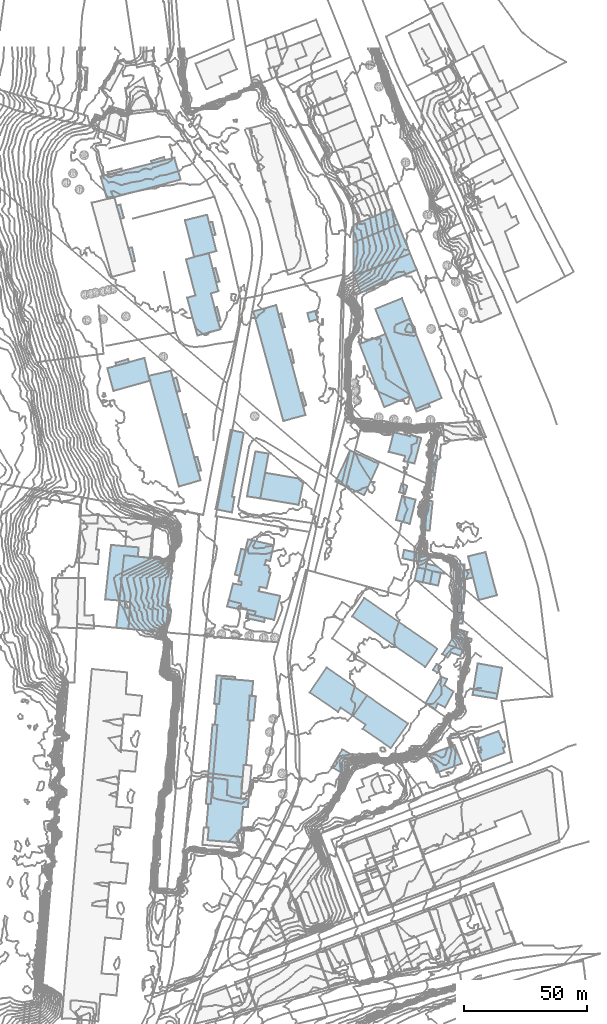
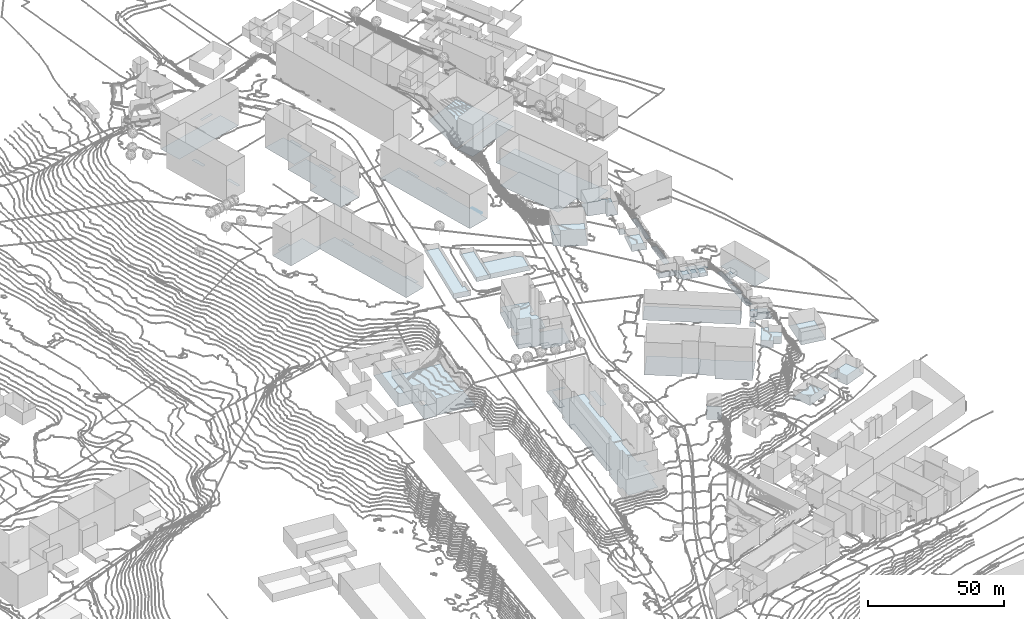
# Not in any storey, part 24 of 419: 72 footings.
"""IFC2X3 model written with IfcOpenShell, lengths in metres."""

from ifc_helpers import new_model, si_unit, frame, origin_with_axes, place, context, subcontext, project, faceted_brep, element, save


model = new_model("IFC2X3")

# Units and contexts
model_context = context("Model", 3, precision=1e-05, world=origin_with_axes())
body_context = subcontext(model_context, "Body", "Model", "MODEL_VIEW")
ifc_project = project(units=[si_unit("AREAUNIT", "SQUARE_METRE"), si_unit("LENGTHUNIT", "METRE")], contexts=[model_context])

# Footings
footing_1_placement = place(None, frame((966.4920204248, 798.5976909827, 87.6229010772), z_axis=(0.0, 0.0, 1.0), x_axis=(1.0, 0.0, 0.0)))
element("IfcFooting", 1, at=footing_1_placement, Name="Sol 0", PredefinedType="STRIP_FOOTING", context=body_context, shape_type="Brep", body=[
    faceted_brep([(2.4, -0.1000000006, 0.0), (0.0, 0.0, 0.0), (0.2, 3.0999999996, 0.0), (0.1, 4.5999999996, 0.0), (2.7, 4.3999999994, 0.0)], [[[0, 1, 2]], [[3, 4, 0]], [[0, 2, 3]]]),
])
footing_2_placement = place(None, frame((919.6920204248, 854.8976909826, 96.6100009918), z_axis=(0.0, 0.0, 1.0), x_axis=(1.0, 0.0, 0.0)))
element("IfcFooting", 2, at=footing_2_placement, Name="Sol 0", PredefinedType="STRIP_FOOTING", context=body_context, shape_type="Brep", body=[
    faceted_brep([(0.0, 0.0, 0.0), (3.4, 13.9000000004, 0.0), (13.4, 9.2000000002, 0.0), (15.1, 8.5, 0.0), (9.2000000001, -4.2999999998, 0.0)], [[[0, 1, 2]], [[3, 4, 0]], [[0, 2, 3]]]),
])
footing_3_placement = place(None, frame((953.7920204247, 766.2976909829, 93.1307992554), z_axis=(0.0, 0.0, 1.0), x_axis=(1.0, 0.0, 0.0)))
element("IfcFooting", 3, at=footing_3_placement, Name="Sol 0", PredefinedType="STRIP_FOOTING", context=body_context, shape_type="Brep", body=[
    faceted_brep([(0.0, 0.0, 0.0), (6.4, 10.5999999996, 0.0), (8.8, 9.5999999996, 0.0), (5.0, -0.4000000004, 0.0), (3.9, -2.6000000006, 0.0), (11.4, 4.5, 0.0), (7.9, -1.9000000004, 0.0), (7.5, 7.0999999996, 0.0)], [[[0, 1, 2]], [[3, 4, 0]], [[5, 6, 3]], [[0, 2, 7]], [[5, 3, 0]], [[0, 7, 5]]]),
])
footing_4_placement = place(None, frame((864.7920204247, 715.6976909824, 91.3789970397), z_axis=(0.0, 0.0, 1.0), x_axis=(1.0, 0.0, 0.0)))
element("IfcFooting", 4, at=footing_4_placement, Name="Sol 0", PredefinedType="STRIP_FOOTING", context=body_context, shape_type="Brep", body=[
    faceted_brep([(3.5, 41.7000000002, 0.0), (4.2000000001, 50.1000000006, 0.0), (5.2000000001, 50.0, 0.0), (0.0, 0.0, 0.0), (0.8, 9.5, 0.0), (1.8, 9.5, 0.0), (12.6000000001, -6.2000000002, 0.0), (0.5, -5.2000000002, 0.0), (1.0, -0.0999999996, 0.0), (14.9, 8.2999999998, 0.0), (14.1000000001, -1.2999999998, 0.0), (13.1000000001, -1.2000000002, 0.0), (17.2000000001, 11.5, 0.0), (16.9, 8.2000000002, 0.0), (17.7000000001, 43.4000000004, 0.0), (16.1000000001, 25.2999999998, 0.0), (15.2000000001, 25.4000000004, 0.0), (19.0, 59.4000000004, 0.0), (18.5, 53.4000000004, 0.0), (17.6000000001, 53.5, 0.0), (6.1000000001, 60.5, 0.0), (4.5, 41.6000000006, 0.0), (14.1000000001, 11.7999999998, 0.0), (16.8, 43.5, 0.0)], [[[0, 1, 2]], [[3, 4, 5]], [[6, 7, 8]], [[9, 10, 11]], [[12, 13, 9]], [[14, 15, 16]], [[17, 18, 19]], [[2, 20, 17]], [[21, 0, 2]], [[8, 3, 5]], [[11, 6, 8]], [[22, 12, 9]], [[23, 14, 16]], [[2, 17, 19]], [[8, 5, 21]], [[9, 11, 8]], [[19, 23, 16]], [[21, 2, 19]], [[9, 8, 21]], [[21, 19, 16]], [[22, 9, 21]], [[21, 16, 22]]]),
])
footing_5_placement = place(None, frame((867.9920204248, 765.8976909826, 96.2319999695), z_axis=(0.0, 0.0, 1.0), x_axis=(1.0, 0.0, 0.0)))
element("IfcFooting", 5, at=footing_5_placement, Name="Sol 0", PredefinedType="STRIP_FOOTING", context=body_context, shape_type="Brep", body=[
    faceted_brep([(8.4, 10.9000000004, 0.0), (8.2999999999, 9.7999999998, 0.0), (2.9, 10.2999999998, 0.0), (2.0, -0.2000000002, 0.0), (0.0, 0.0, 0.0), (1.0, 11.5, 0.0)], [[[0, 1, 2]], [[3, 4, 5]], [[5, 0, 2]], [[2, 3, 5]]]),
])
footing_6_placement = place(None, frame((972.8920204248, 769.4976909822, 85.5200004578), z_axis=(0.0, 0.0, 1.0), x_axis=(1.0, 0.0, 0.0)))
element("IfcFooting", 6, at=footing_6_placement, Name="Sol 0", PredefinedType="STRIP_FOOTING", context=body_context, shape_type="Brep", body=[
    faceted_brep([(0.0, 0.0, 0.0), (0.3999999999, 2.2000000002, 0.0), (10.2, 0.5, 0.0), (9.7, -1.5999999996, 0.0)], [[[0, 1, 2]], [[2, 3, 0]]]),
])
footing_7_placement = place(None, frame((953.7920204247, 820.5976909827, 94.747599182), z_axis=(0.0, 0.0, 1.0), x_axis=(1.0, 0.0, 0.0)))
element("IfcFooting", 7, at=footing_7_placement, Name="Sol 0", PredefinedType="STRIP_FOOTING", context=body_context, shape_type="Brep", body=[
    faceted_brep([(2.9, -0.9000000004, 0.0), (0.0, 0.0, 0.0), (0.4, 2.2000000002, 0.0), (7.8, -1.4000000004, 0.0), (7.7000000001, -1.9000000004, 0.0), (4.8, 1.0999999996, 0.0)], [[[0, 1, 2]], [[3, 4, 0]], [[2, 5, 3]], [[3, 0, 2]]]),
])
footing_8_placement = place(None, frame((856.5920204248, 946.3976909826, 97.8904017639), z_axis=(0.0, 0.0, 1.0), x_axis=(1.0, 0.0, 0.0)))
element("IfcFooting", 8, at=footing_8_placement, Name="Sol 0", PredefinedType="STRIP_FOOTING", context=body_context, shape_type="Brep", body=[
    faceted_brep([(0.0, 0.0, 0.0), (3.3, 1.0, 0.0), (9.2, 2.5, 0.0), (4.6, -30.9000000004, 0.0), (0.4, -15.5999999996, 0.0), (3.8, -14.5999999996, 0.0), (10.1, -13.7999999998, 0.0), (13.9, -28.4000000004, 0.0), (13.1, -12.9000000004, 0.0)], [[[0, 1, 2]], [[3, 4, 5]], [[6, 7, 3]], [[2, 8, 6]], [[5, 0, 2]], [[6, 3, 5]], [[5, 2, 6]]]),
])
footing_9_placement = place(None, frame((955.4920204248, 745.3976909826, 82.5194986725), z_axis=(0.0, 0.0, 1.0), x_axis=(1.0, 0.0, 0.0)))
element("IfcFooting", 9, at=footing_9_placement, Name="Sol 0", PredefinedType="STRIP_FOOTING", context=body_context, shape_type="Brep", body=[
    faceted_brep([(0.0, 0.0, 0.0), (10.2, 3.7999999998, 0.0), (13.2, -3.7000000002, 0.0), (2.9, -7.5, 0.0)], [[[0, 1, 2]], [[2, 3, 0]]]),
])
footing_10_placement = place(None, frame((973.8920204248, 751.2976909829, 82.4180023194), z_axis=(0.0, 0.0, 1.0), x_axis=(1.0, 0.0, 0.0)))
element("IfcFooting", 10, at=footing_10_placement, Name="Sol 0", PredefinedType="STRIP_FOOTING", context=body_context, shape_type="Brep", body=[
    faceted_brep([(1.2999999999, -4.7000000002, 0.0), (1.6, -4.5, 0.0), (2.7, -4.2000000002, 0.0), (12.0, -5.2000000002, 0.0), (2.8999999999, -8.7000000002, 0.0), (11.8999999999, -0.8000000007, 0.0), (12.2999999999, -2.8000000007, 0.0), (11.3999999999, -3.3000000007, 0.0), (0.0, 0.0, 0.0), (9.6, 3.5, 0.0), (11.3999999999, -0.9000000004, 0.0), (2.2999999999, -3.0, 0.0), (1.2999999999, -3.5, 0.0)], [[[0, 1, 2]], [[3, 4, 0]], [[5, 6, 7]], [[8, 9, 10]], [[11, 12, 8]], [[3, 0, 2]], [[10, 5, 7]], [[11, 8, 10]], [[3, 2, 11]], [[11, 10, 7]], [[7, 3, 11]]]),
])
footing_11_placement = place(None, frame((924.4920204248, 939.6976909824, 87.7650001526), z_axis=(0.0, 0.0, 1.0), x_axis=(1.0, 0.0, 0.0)))
element("IfcFooting", 11, at=footing_11_placement, Name="Sol 0", PredefinedType="STRIP_FOOTING", context=body_context, shape_type="Brep", body=[
    faceted_brep([(15.7999999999, 27.2999999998, 0.0), (23.1, 9.0, 0.0), (0.0, 0.0, 0.0), (0.1, 20.7000000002, 0.0)], [[[0, 1, 2]], [[2, 3, 0]]]),
])
footing_12_placement = place(None, frame((971.0920204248, 825.7976909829, 87.4388011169), z_axis=(0.0, 0.0, 1.0), x_axis=(1.0, 0.0, 0.0)))
element("IfcFooting", 12, at=footing_12_placement, Name="Sol 0", PredefinedType="STRIP_FOOTING", context=body_context, shape_type="Brep", body=[
    faceted_brep([(4.4, -17.7000000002, 0.0), (2.1, -8.6000000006, 0.0), (0.0, 0.0, 0.0), (7.1, 1.6999999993, 0.0), (11.7, -15.8000000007, 0.0)], [[[0, 1, 2]], [[3, 4, 0]], [[0, 2, 3]]]),
])
footing_13_placement = place(None, frame((969.3920204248, 816.2976909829, 87.8224008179), z_axis=(0.0, 0.0, 1.0), x_axis=(1.0, 0.0, 0.0)))
element("IfcFooting", 13, at=footing_13_placement, Name="Sol 0", PredefinedType="STRIP_FOOTING", context=body_context, shape_type="Brep", body=[
    faceted_brep([(3.7999999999, 0.8999999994, 0.0), (0.0, 0.0, 0.0), (0.1, 3.6999999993, 0.0), (2.7999999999, 4.1999999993, 0.0)], [[[0, 1, 2]], [[2, 3, 0]]]),
])
footing_14_placement = place(None, frame((859.8920204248, 865.9976909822, 97.2720973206), z_axis=(0.0, 0.0, 1.0), x_axis=(1.0, 0.0, 0.0)))
element("IfcFooting", 14, at=footing_14_placement, Name="Sol 0", PredefinedType="STRIP_FOOTING", context=body_context, shape_type="Brep", body=[
    faceted_brep([(2.7999999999, -5.2999999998, 0.0), (1.5, -5.5999999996, 0.0), (0.0, 0.0, 0.0), (1.2999999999, 0.2000000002, 0.0)], [[[0, 1, 2]], [[2, 3, 0]]]),
])
footing_15_placement = place(None, frame((873.8920204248, 807.8976909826, 96.2265022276), z_axis=(0.0, 0.0, 1.0), x_axis=(1.0, 0.0, 0.0)))
element("IfcFooting", 15, at=footing_15_placement, Name="Sol 0", PredefinedType="STRIP_FOOTING", context=body_context, shape_type="Brep", body=[
    faceted_brep([(5.1, -1.4000000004, 0.0), (0.0, 0.0, 0.0), (1.7, 6.7999999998, 0.0), (10.8999999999, -4.5, 0.0), (4.7, -3.2999999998, 0.0), (18.3999999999, -7.9000000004, 0.0), (10.5, -6.2000000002, 0.0), (12.2, 3.7000000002, 0.0), (20.8999999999, 1.7999999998, 0.0), (17.0, 11.2999999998, 0.0), (15.2999999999, 4.9000000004, 0.0), (12.6, 5.5, 0.0), (16.1, 14.0999999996, 0.0), (16.7, 12.7999999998, 0.0), (16.2999999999, 11.2999999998, 0.0), (18.2, 22.4000000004, 0.0), (16.7999999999, 16.0, 0.0), (15.1, 16.2999999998, 0.0), (3.8999999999, 7.7000000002, 0.0), (7.7999999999, 24.7999999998, 0.0), (5.1, 6.2000000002, 0.0), (14.6, 14.4000000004, 0.0), (5.2999999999, 7.5, 0.0)], [[[0, 1, 2]], [[3, 4, 0]], [[5, 6, 3]], [[7, 8, 5]], [[9, 10, 11]], [[12, 13, 14]], [[15, 16, 17]], [[18, 19, 15]], [[0, 2, 20]], [[5, 3, 0]], [[14, 9, 11]], [[21, 12, 14]], [[18, 15, 17]], [[0, 20, 22]], [[7, 5, 0]], [[21, 14, 11]], [[18, 17, 21]], [[7, 0, 22]], [[22, 18, 21]], [[11, 7, 22]], [[22, 21, 11]]]),
])
footing_16_placement = place(None, frame((955.0920204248, 852.8976909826, 88.6566027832), z_axis=(0.0, 0.0, 1.0), x_axis=(1.0, 0.0, 0.0)))
element("IfcFooting", 16, at=footing_16_placement, Name="Sol 0", PredefinedType="STRIP_FOOTING", context=body_context, shape_type="Brep", body=[
    faceted_brep([(0.0, 0.0, 0.0), (1.7, 14.0, 0.0), (3.7, 13.7000000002, 0.0), (1.7, -0.2000000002, 0.0)], [[[0, 1, 2]], [[2, 3, 0]]]),
])
footing_17_placement = place(None, frame((865.8920204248, 961.3976909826, 98.3867999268), z_axis=(0.0, 0.0, 1.0), x_axis=(1.0, 0.0, 0.0)))
element("IfcFooting", 17, at=footing_17_placement, Name="Sol 0", PredefinedType="STRIP_FOOTING", context=body_context, shape_type="Brep", body=[
    faceted_brep([(1.3999999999, -5.2999999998, 0.0), (0.0, 0.0, 0.0), (1.3999999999, 0.2000000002, 0.0), (2.6, -5.0, 0.0)], [[[0, 1, 2]], [[2, 3, 0]]]),
])
footing_18_placement = place(None, frame((851.1920204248, 897.8976909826, 97.4899997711), z_axis=(0.0, 0.0, 1.0), x_axis=(1.0, 0.0, 0.0)))
element("IfcFooting", 18, at=footing_18_placement, Name="Sol 0", PredefinedType="STRIP_FOOTING", context=body_context, shape_type="Brep", body=[
    faceted_brep([(1.5, -5.2999999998, 0.0), (0.0, 0.0, 0.0), (1.5, 0.4000000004, 0.0), (2.9, -5.0, 0.0)], [[[0, 1, 2]], [[2, 3, 0]]]),
])
footing_19_placement = place(None, frame((867.4920204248, 942.6976909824, 98.3299980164), z_axis=(0.0, 0.0, 1.0), x_axis=(1.0, 0.0, 0.0)))
element("IfcFooting", 19, at=footing_19_placement, Name="Sol 0", PredefinedType="STRIP_FOOTING", context=body_context, shape_type="Brep", body=[
    faceted_brep([(1.4, -5.5999999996, 0.0), (0.0, 0.0, 0.0), (1.1, 0.2000000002, 0.0), (2.6, -5.2999999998, 0.0)], [[[0, 1, 2]], [[2, 3, 0]]]),
])
footing_20_placement = place(None, frame((881.5920204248, 759.1976909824, 96.2240005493), z_axis=(0.0, 0.0, 1.0), x_axis=(1.0, 0.0, 0.0)))
element("IfcFooting", 20, at=footing_20_placement, Name="Sol 0", PredefinedType="STRIP_FOOTING", context=body_context, shape_type="Brep", body=[
    faceted_brep([(0.8, 10.0, 0.0), (1.7, 9.9000000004, 0.0), (3.3, 9.7000000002, 0.0), (2.4, -0.2000000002, 0.0), (0.0, 0.0, 0.0)], [[[0, 1, 2]], [[3, 4, 0]], [[0, 2, 3]]]),
])
footing_21_placement = place(None, frame((956.7920204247, 779.5976909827, 93.3320007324), z_axis=(0.0, 0.0, 1.0), x_axis=(1.0, 0.0, 0.0)))
element("IfcFooting", 21, at=footing_21_placement, Name="Sol 0", PredefinedType="STRIP_FOOTING", context=body_context, shape_type="Brep", body=[
    faceted_brep([(0.0, 0.0, 0.0), (1.6000000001, 2.5, 0.0), (3.4, 1.2999999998, 0.0), (1.8, -1.2000000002, 0.0)], [[[0, 1, 2]], [[2, 3, 0]]]),
])
footing_22_placement = place(None, frame((924.2920204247, 760.8976909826, 94.2938012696), z_axis=(0.0, 0.0, 1.0), x_axis=(1.0, 0.0, 0.0)))
element("IfcFooting", 22, at=footing_22_placement, Name="Sol 0", PredefinedType="STRIP_FOOTING", context=body_context, shape_type="Brep", body=[
    faceted_brep([(0.0, 0.0, 0.0), (5.7000000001, 8.2999999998, 0.0), (22.4, -3.0999999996, 0.0), (15.4, -13.0, 0.0), (3.9, -5.2000000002, 0.0), (5.2000000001, -3.5, 0.0)], [[[0, 1, 2]], [[3, 4, 5]], [[5, 0, 2]], [[2, 3, 5]]]),
])
footing_23_placement = place(None, frame((927.0920204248, 911.9976909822, 86.8095017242), z_axis=(0.0, 0.0, 1.0), x_axis=(1.0, 0.0, 0.0)))
element("IfcFooting", 23, at=footing_23_placement, Name="Sol 0", PredefinedType="STRIP_FOOTING", context=body_context, shape_type="Brep", body=[
    faceted_brep([(10.4, 4.1000000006, 0.0), (20.5, -21.1999999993, 0.0), (10.0, -25.5, 0.0), (0.0, 0.0, 0.0)], [[[0, 1, 2]], [[2, 3, 0]]]),
])
footing_24_placement = place(None, frame((886.6920204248, 849.2976909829, 97.1301996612), z_axis=(0.0, 0.0, 1.0), x_axis=(1.0, 0.0, 0.0)))
element("IfcFooting", 24, at=footing_24_placement, Name="Sol 0", PredefinedType="STRIP_FOOTING", context=body_context, shape_type="Brep", body=[
    faceted_brep([(14.9, 8.1999999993, 0.0), (17.4, 6.1999999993, 0.0), (15.6, -2.6000000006, 0.0), (0.0, 0.0, 0.0), (2.0, 10.3999999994, 0.0)], [[[0, 1, 2]], [[3, 4, 0]], [[0, 2, 3]]]),
])
footing_25_placement = place(None, frame((963.0920204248, 789.7976909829, 87.6648019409), z_axis=(0.0, 0.0, 1.0), x_axis=(1.0, 0.0, 0.0)))
element("IfcFooting", 25, at=footing_25_placement, Name="Sol 0", PredefinedType="STRIP_FOOTING", context=body_context, shape_type="Brep", body=[
    faceted_brep([(8.3, 0.7999999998, 0.0), (7.7, -2.8000000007, 0.0), (0.0, 0.0, 0.0), (1.7, 2.6999999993, 0.0), (1.7, 3.3999999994, 0.0)], [[[0, 1, 2]], [[3, 4, 0]], [[0, 2, 3]]]),
])
footing_26_placement = place(None, frame((881.2920204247, 850.0976909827, 97.16780159), z_axis=(0.0, 0.0, 1.0), x_axis=(1.0, 0.0, 0.0)))
element("IfcFooting", 26, at=footing_26_placement, Name="Sol 0", PredefinedType="STRIP_FOOTING", context=body_context, shape_type="Brep", body=[
    faceted_brep([(3.4, 18.2999999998, 0.0), (8.8, 17.3999999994, 0.0), (5.4, -0.7999999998, 0.0), (0.0, 0.0, 0.0)], [[[0, 1, 2]], [[2, 3, 0]]]),
])
footing_27_placement = place(None, frame((881.2920204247, 802.4976909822, 97.0060984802), z_axis=(0.0, 0.0, 1.0), x_axis=(1.0, 0.0, 0.0)))
element("IfcFooting", 27, at=footing_27_placement, Name="Sol 0", PredefinedType="STRIP_FOOTING", context=body_context, shape_type="Brep", body=[
    faceted_brep([(3.1000000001, -0.7999999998, 0.0), (0.0, 0.0, 0.0), (0.4, 1.5, 0.0), (3.5, 0.9000000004, 0.0)], [[[0, 1, 2]], [[2, 3, 0]]]),
])
footing_28_placement = place(None, frame((966.8920204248, 806.8976909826, 87.638598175), z_axis=(0.0, 0.0, 1.0), x_axis=(1.0, 0.0, 0.0)))
element("IfcFooting", 28, at=footing_28_placement, Name="Sol 0", PredefinedType="STRIP_FOOTING", context=body_context, shape_type="Brep", body=[
    faceted_brep([(2.5, 5.2000000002, 0.0), (2.5, -0.2000000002, 0.0), (1.5, -0.0999999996, 0.0), (0.0, 0.0, 0.0), (0.3999999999, 6.7999999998, 0.0)], [[[0, 1, 2]], [[3, 4, 0]], [[0, 2, 3]]]),
])
footing_29_placement = place(None, frame((953.2920204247, 836.3976909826, 88.0883973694), z_axis=(0.0, 0.0, 1.0), x_axis=(1.0, 0.0, 0.0)))
element("IfcFooting", 29, at=footing_29_placement, Name="Sol 0", PredefinedType="STRIP_FOOTING", context=body_context, shape_type="Brep", body=[
    faceted_brep([(1.3, 12.0999999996, 0.0), (3.4, 11.7000000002, 0.0), (2.2000000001, -0.0999999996, 0.0), (0.0, 0.0, 0.0)], [[[0, 1, 2]], [[2, 3, 0]]]),
])
footing_30_placement = place(None, frame((967.3920204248, 814.2976909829, 87.8290016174), z_axis=(0.0, 0.0, 1.0), x_axis=(1.0, 0.0, 0.0)))
element("IfcFooting", 30, at=footing_30_placement, Name="Sol 0", PredefinedType="STRIP_FOOTING", context=body_context, shape_type="Brep", body=[
    faceted_brep([(2.2, 8.1999999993, 0.0), (2.0, -1.5, 0.0), (0.0, 0.0, 0.0), (0.5, 7.1999999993, 0.0), (0.2, 8.1999999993, 0.0)], [[[0, 1, 2]], [[3, 4, 0]], [[0, 2, 3]]]),
])
footing_31_placement = place(None, frame((966.5920204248, 803.1976909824, 87.7783999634), z_axis=(0.0, 0.0, 1.0), x_axis=(1.0, 0.0, 0.0)))
element("IfcFooting", 31, at=footing_31_placement, Name="Sol 0", PredefinedType="STRIP_FOOTING", context=body_context, shape_type="Brep", body=[
    faceted_brep([(1.8, -0.2000000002, 0.0), (0.0, 0.0, 0.0), (0.3, 3.7000000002, 0.0), (1.8, 3.6000000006, 0.0)], [[[0, 1, 2]], [[2, 3, 0]]]),
])
footing_32_placement = place(None, frame((924.9920204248, 939.6976909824, 87.0495999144), z_axis=(0.0, 0.0, 1.0), x_axis=(1.0, 0.0, 0.0)))
element("IfcFooting", 32, at=footing_32_placement, Name="Sol 0", PredefinedType="STRIP_FOOTING", context=body_context, shape_type="Brep", body=[
    faceted_brep([(22.6, 9.0, 0.0), (25.2999999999, 2.5, 0.0), (8.0, -4.2000000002, 0.0), (2.5, -6.7999999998, 0.0), (0.0, 0.0, 0.0), (8.0, -4.7000000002, 0.0)], [[[0, 1, 2]], [[3, 4, 0]], [[2, 5, 3]], [[3, 0, 2]]]),
])
footing_33_placement = place(None, frame((868.1920204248, 926.6976909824, 98.0819992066), z_axis=(0.0, 0.0, 1.0), x_axis=(1.0, 0.0, 0.0)))
element("IfcFooting", 33, at=footing_33_placement, Name="Sol 0", PredefinedType="STRIP_FOOTING", context=body_context, shape_type="Brep", body=[
    faceted_brep([(2.4, -5.0999999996, 0.0), (1.3, -5.3999999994, 0.0), (0.0, 0.0, 0.0), (1.0, 0.4000000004, 0.0)], [[[0, 1, 2]], [[2, 3, 0]]]),
])
footing_34_placement = place(None, frame((833.1920204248, 950.9976909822, 98.5739990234), z_axis=(0.0, 0.0, 1.0), x_axis=(1.0, 0.0, 0.0)))
element("IfcFooting", 34, at=footing_34_placement, Name="Sol 0", PredefinedType="STRIP_FOOTING", context=body_context, shape_type="Brep", body=[
    faceted_brep([(2.7000000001, -5.2999999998, 0.0), (1.6, -5.5999999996, 0.0), (0.0, 0.0, 0.0), (1.4, 0.3000000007, 0.0)], [[[0, 1, 2]], [[2, 3, 0]]]),
])
footing_35_placement = place(None, frame((883.8920204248, 925.2976909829, 97.2430023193), z_axis=(0.0, 0.0, 1.0), x_axis=(1.0, 0.0, 0.0)))
element("IfcFooting", 35, at=footing_35_placement, Name="Sol 0", PredefinedType="STRIP_FOOTING", context=body_context, shape_type="Brep", body=[
    faceted_brep([(0.0, 0.0, 0.0), (9.2999999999, 2.5, 0.0), (10.2, -1.1000000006, 0.0), (21.2, -42.1000000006, 0.0), (12.2, -44.5, 0.0)], [[[0, 1, 2]], [[3, 4, 0]], [[0, 2, 3]]]),
])
footing_36_placement = place(None, frame((960.5920204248, 786.0976909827, 92.645898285), z_axis=(0.0, 0.0, 1.0), x_axis=(1.0, 0.0, 0.0)))
element("IfcFooting", 36, at=footing_36_placement, Name="Sol 0", PredefinedType="STRIP_FOOTING", context=body_context, shape_type="Brep", body=[
    faceted_brep([(2.5, 3.7000000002, 0.0), (8.3, 1.5999999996, 0.0), (7.4, -0.7999999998, 0.0), (2.2, -1.5, 0.0), (0.0, 0.0, 0.0), (3.6, 0.5999999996, 0.0)], [[[0, 1, 2]], [[3, 4, 0]], [[0, 2, 5]], [[5, 3, 0]]]),
])
footing_37_placement = place(None, frame((950.4920204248, 821.1976909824, 91.573501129), z_axis=(0.0, 0.0, 1.0), x_axis=(1.0, 0.0, 0.0)))
element("IfcFooting", 37, at=footing_37_placement, Name="Sol 0", PredefinedType="STRIP_FOOTING", context=body_context, shape_type="Brep", body=[
    faceted_brep([(3.2999999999, -0.5999999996, 0.0), (0.0, 0.0, 0.0), (1.4, 6.1000000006, 0.0), (4.2999999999, 3.9000000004, 0.0)], [[[0, 1, 2]], [[2, 3, 0]]]),
])
footing_38_placement = place(None, frame((894.0920204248, 924.1976909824, 97.4109981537), z_axis=(0.0, 0.0, 1.0), x_axis=(1.0, 0.0, 0.0)))
element("IfcFooting", 38, at=footing_38_placement, Name="Sol 0", PredefinedType="STRIP_FOOTING", context=body_context, shape_type="Brep", body=[
    faceted_brep([(1.6, -5.5, 0.0), (0.0, 0.0, 0.0), (1.2, 0.2000000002, 0.0), (2.6, -5.2999999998, 0.0)], [[[0, 1, 2]], [[2, 3, 0]]]),
])
footing_39_placement = place(None, frame((933.4920204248, 926.2976909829, 86.2701992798), z_axis=(0.0, 0.0, 1.0), x_axis=(1.0, 0.0, 0.0)))
element("IfcFooting", 39, at=footing_39_placement, Name="Sol 0", PredefinedType="STRIP_FOOTING", context=body_context, shape_type="Brep", body=[
    faceted_brep([(26.9, -36.2000000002, 0.0), (16.2999999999, -40.6000000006, 0.0), (0.0, 0.0, 0.0), (10.7, 4.2999999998, 0.0)], [[[0, 1, 2]], [[2, 3, 0]]]),
])
footing_40_placement = place(None, frame((973.2920204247, 771.6976909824, 85.6960006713), z_axis=(0.0, 0.0, 1.0), x_axis=(1.0, 0.0, 0.0)))
element("IfcFooting", 40, at=footing_40_placement, Name="Sol 0", PredefinedType="STRIP_FOOTING", context=body_context, shape_type="Brep", body=[
    faceted_brep([(9.8, -1.7000000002, 0.0), (0.0, 0.0, 0.0), (1.7000000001, 10.6000000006, 0.0), (11.6000000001, 8.7999999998, 0.0)], [[[0, 1, 2]], [[2, 3, 0]]]),
])
footing_41_placement = place(None, frame((864.5920204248, 725.2976909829, 93.6399993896), z_axis=(0.0, 0.0, 1.0), x_axis=(1.0, 0.0, 0.0)))
element("IfcFooting", 41, at=footing_41_placement, Name="Sol 0", PredefinedType="STRIP_FOOTING", context=body_context, shape_type="Brep", body=[
    faceted_brep([(2.0, -0.1000000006, 0.0), (1.0, -0.1000000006, 0.0), (0.0, 0.0, 0.0), (2.7, 32.1999999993, 0.0), (4.7, 32.0, 0.0)], [[[0, 1, 2]], [[3, 4, 0]], [[0, 2, 3]]]),
])
footing_42_placement = place(None, frame((915.6920204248, 740.1976909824, 89.911000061), z_axis=(0.0, 0.0, 1.0), x_axis=(1.0, 0.0, 0.0)))
element("IfcFooting", 42, at=footing_42_placement, Name="Sol 0", PredefinedType="STRIP_FOOTING", context=body_context, shape_type="Brep", body=[
    faceted_brep([(4.8, -2.7999999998, 0.0), (0.0, 0.0, 0.0), (4.3, 7.2000000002, 0.0), (8.9, 4.5, 0.0)], [[[0, 1, 2]], [[2, 3, 0]]]),
])
footing_43_placement = place(None, frame((943.0920204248, 851.7976909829, 95.6379974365), z_axis=(0.0, 0.0, 1.0), x_axis=(1.0, 0.0, 0.0)))
element("IfcFooting", 43, at=footing_43_placement, Name="Sol 0", PredefinedType="STRIP_FOOTING", context=body_context, shape_type="Brep", body=[
    faceted_brep([(3.3, 2.5999999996, 0.0), (2.4, -0.7000000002, 0.0), (0.0, 0.0, 0.0), (1.0, 3.5, 0.0)], [[[0, 1, 2]], [[2, 3, 0]]]),
])
footing_44_placement = place(None, frame((828.1920204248, 796.7976909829, 86.2067993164), z_axis=(0.0, 0.0, 1.0), x_axis=(1.0, 0.0, 0.0)))
element("IfcFooting", 44, at=footing_44_placement, Name="Sol 0", PredefinedType="STRIP_FOOTING", context=body_context, shape_type="Brep", body=[
    faceted_brep([(5.5, 7.7999999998, 0.0), (5.0, -0.5, 0.0), (0.0, 0.0, 0.0), (1.3, 11.0, 0.0), (3.7000000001, 10.5999999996, 0.0), (3.5, 8.1999999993, 0.0)], [[[0, 1, 2]], [[3, 4, 5]], [[5, 0, 2]], [[2, 3, 5]]]),
])
footing_45_placement = place(None, frame((944.3920204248, 824.9976909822, 91.7925010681), z_axis=(0.0, 0.0, 1.0), x_axis=(1.0, 0.0, 0.0)))
element("IfcFooting", 45, at=footing_45_placement, Name="Sol 0", PredefinedType="STRIP_FOOTING", context=body_context, shape_type="Brep", body=[
    faceted_brep([(7.2999999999, 1.9000000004, 0.0), (6.6, -1.5, 0.0), (0.0, 0.0, 0.0), (0.7, 3.4000000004, 0.0)], [[[0, 1, 2]], [[2, 3, 0]]]),
])
footing_46_placement = place(None, frame((917.2920204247, 856.0976909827, 97.0349990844), z_axis=(0.0, 0.0, 1.0), x_axis=(1.0, 0.0, 0.0)))
element("IfcFooting", 46, at=footing_46_placement, Name="Sol 0", PredefinedType="STRIP_FOOTING", context=body_context, shape_type="Brep", body=[
    faceted_brep([(5.8, 12.7000000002, 0.0), (2.4, -1.2000000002, 0.0), (0.0, 0.0, 0.0)], [[[0, 1, 2]]]),
])
footing_47_placement = place(None, frame((955.5920204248, 814.5976909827, 94.7439998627), z_axis=(0.0, 0.0, 1.0), x_axis=(1.0, 0.0, 0.0)))
element("IfcFooting", 47, at=footing_47_placement, Name="Sol 0", PredefinedType="STRIP_FOOTING", context=body_context, shape_type="Brep", body=[
    faceted_brep([(3.3, -0.7000000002, 0.0), (0.0, 0.0, 0.0), (1.1, 5.0999999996, 0.0), (4.5, 4.5, 0.0)], [[[0, 1, 2]], [[2, 3, 0]]]),
])
footing_48_placement = place(None, frame((873.1920204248, 805.3976909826, 96.8764018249), z_axis=(0.0, 0.0, 1.0), x_axis=(1.0, 0.0, 0.0)))
element("IfcFooting", 48, at=footing_48_placement, Name="Sol 0", PredefinedType="STRIP_FOOTING", context=body_context, shape_type="Brep", body=[
    faceted_brep([(0.0, 0.0, 0.0), (0.7000000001, 2.5, 0.0), (5.8, 1.0999999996, 0.0), (5.3, -1.2000000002, 0.0)], [[[0, 1, 2]], [[2, 3, 0]]]),
])
footing_49_placement = place(None, frame((823.6920204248, 808.2976909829, 86.3220993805), z_axis=(0.0, 0.0, 1.0), x_axis=(1.0, 0.0, 0.0)))
element("IfcFooting", 49, at=footing_49_placement, Name="Sol 0", PredefinedType="STRIP_FOOTING", context=body_context, shape_type="Brep", body=[
    faceted_brep([(13.6, 21.0999999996, 0.0), (13.3, 17.2999999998, 0.0), (7.7000000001, 17.8999999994, 0.0), (5.8, -0.5, 0.0), (0.0, 0.0, 0.0), (2.4, 22.0999999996, 0.0)], [[[0, 1, 2]], [[3, 4, 5]], [[5, 0, 2]], [[2, 3, 5]]]),
])
footing_50_placement = place(None, frame((880.9920204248, 800.6976909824, 96.9460003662), z_axis=(0.0, 0.0, 1.0), x_axis=(1.0, 0.0, 0.0)))
element("IfcFooting", 50, at=footing_50_placement, Name="Sol 0", PredefinedType="STRIP_FOOTING", context=body_context, shape_type="Brep", body=[
    faceted_brep([(0.2999999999, 1.7999999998, 0.0), (7.6, 0.1000000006, 0.0), (7.2999999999, -1.5999999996, 0.0), (0.0, 0.0, 0.0)], [[[0, 1, 2]], [[2, 3, 0]]]),
])
footing_51_placement = place(None, frame((827.9920204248, 904.3976909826, 97.4119995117), z_axis=(0.0, 0.0, 1.0), x_axis=(1.0, 0.0, 0.0)))
element("IfcFooting", 51, at=footing_51_placement, Name="Sol 0", PredefinedType="STRIP_FOOTING", context=body_context, shape_type="Brep", body=[
    faceted_brep([(5.1, 1.5, 0.0), (5.5, 0.2000000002, 0.0), (0.1, -1.2000000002, 0.0), (0.0, 0.0, 0.0)], [[[0, 1, 2]], [[2, 3, 0]]]),
])
footing_52_placement = place(None, frame((876.3920204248, 818.2976909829, 97.1100028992), z_axis=(0.0, 0.0, 1.0), x_axis=(1.0, 0.0, 0.0)))
element("IfcFooting", 52, at=footing_52_placement, Name="Sol 0", PredefinedType="STRIP_FOOTING", context=body_context, shape_type="Brep", body=[
    faceted_brep([(4.5, 10.0999999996, 0.0), (2.0, -0.5, 0.0), (0.0, 0.0, 0.0), (2.5, 10.5, 0.0)], [[[0, 1, 2]], [[2, 3, 0]]]),
])
footing_53_placement = place(None, frame((829.4920204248, 807.7976909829, 86.4760025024), z_axis=(0.0, 0.0, 1.0), x_axis=(1.0, 0.0, 0.0)))
element("IfcFooting", 53, at=footing_53_placement, Name="Sol 0", PredefinedType="STRIP_FOOTING", context=body_context, shape_type="Brep", body=[
    faceted_brep([(20.2999999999, -1.6000000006, 0.0), (19.2999999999, -13.0, 0.0), (3.7, -11.5, 0.0), (1.9, 18.3999999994, 0.0), (21.6, 16.5, 0.0), (19.7, -1.6000000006, 0.0), (4.4, -0.7000000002, 0.0), (0.0, 0.0, 0.0)], [[[0, 1, 2]], [[3, 4, 5]], [[6, 7, 3]], [[5, 0, 2]], [[6, 3, 5]], [[5, 2, 6]]]),
])
footing_54_placement = place(None, frame((828.3920204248, 968.2976909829, 98.6175973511), z_axis=(0.0, 0.0, 1.0), x_axis=(1.0, 0.0, 0.0)))
element("IfcFooting", 54, at=footing_54_placement, Name="Sol 0", PredefinedType="STRIP_FOOTING", context=body_context, shape_type="Brep", body=[
    faceted_brep([(1.6, -5.5, 0.0), (0.0, 0.0, 0.0), (1.5, 0.2999999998, 0.0), (2.8999999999, -5.0, 0.0)], [[[0, 1, 2]], [[2, 3, 0]]]),
])
footing_55_placement = place(None, frame((821.8920204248, 980.0976909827, 98.9060024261), z_axis=(0.0, 0.0, 1.0), x_axis=(1.0, 0.0, 0.0)))
element("IfcFooting", 55, at=footing_55_placement, Name="Sol 0", PredefinedType="STRIP_FOOTING", context=body_context, shape_type="Brep", body=[
    faceted_brep([(32.5, -1.2999999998, 0.0), (2.6, -9.2000000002, 0.0), (0.0, 0.0, 0.0), (29.8999999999, 7.5999999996, 0.0)], [[[0, 1, 2]], [[2, 3, 0]]]),
])
footing_56_placement = place(None, frame((868.5920204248, 844.8976909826, 97.0700003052), z_axis=(0.0, 0.0, 1.0), x_axis=(1.0, 0.0, 0.0)))
element("IfcFooting", 56, at=footing_56_placement, Name="Sol 0", PredefinedType="STRIP_FOOTING", context=body_context, shape_type="Brep", body=[
    faceted_brep([(6.1, 32.2000000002, 0.0), (11.4, 31.0, 0.0), (6.6, 5.0999999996, 0.0), (6.6, -1.2999999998, 0.0), (0.0, 0.0, 0.0), (7.6, 4.9000000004, 0.0)], [[[0, 1, 2]], [[3, 4, 0]], [[2, 5, 3]], [[3, 0, 2]]]),
])
footing_57_placement = place(None, frame((841.3920204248, 899.0976909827, 97.1165977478), z_axis=(0.0, 0.0, 1.0), x_axis=(1.0, 0.0, 0.0)))
element("IfcFooting", 57, at=footing_57_placement, Name="Sol 0", PredefinedType="STRIP_FOOTING", context=body_context, shape_type="Brep", body=[
    faceted_brep([(0.0, 0.0, 0.0), (9.0, 2.0999999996, 0.0), (21.1, -42.4000000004, 0.0), (12.2999999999, -44.9000000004, 0.0)], [[[0, 1, 2]], [[2, 3, 0]]]),
])
footing_58_placement = place(None, frame((824.5920204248, 902.1976909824, 97.1800010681), z_axis=(0.0, 0.0, 1.0), x_axis=(1.0, 0.0, 0.0)))
element("IfcFooting", 58, at=footing_58_placement, Name="Sol 0", PredefinedType="STRIP_FOOTING", context=body_context, shape_type="Brep", body=[
    faceted_brep([(0.0, 0.0, 0.0), (15.1, 4.2000000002, 0.0), (16.8, -3.0999999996, 0.0), (17.5, -5.0, 0.0), (2.5, -9.2000000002, 0.0)], [[[0, 1, 2]], [[3, 4, 0]], [[0, 2, 3]]]),
])
footing_59_placement = place(None, frame((905.8920204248, 924.5976909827, 96.9644007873), z_axis=(0.0, 0.0, 1.0), x_axis=(1.0, 0.0, 0.0)))
element("IfcFooting", 59, at=footing_59_placement, Name="Sol 0", PredefinedType="STRIP_FOOTING", context=body_context, shape_type="Brep", body=[
    faceted_brep([(4.1, -2.5, 0.0), (0.8999999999, -3.5, 0.0), (0.0, 0.0, 0.0), (3.2, 0.8999999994, 0.0)], [[[0, 1, 2]], [[2, 3, 0]]]),
])
footing_60_placement = place(None, frame((898.0920204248, 909.3976909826, 97.3251992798), z_axis=(0.0, 0.0, 1.0), x_axis=(1.0, 0.0, 0.0)))
element("IfcFooting", 60, at=footing_60_placement, Name="Sol 0", PredefinedType="STRIP_FOOTING", context=body_context, shape_type="Brep", body=[
    faceted_brep([(1.5, -5.2000000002, 0.0), (0.0, 0.0, 0.0), (1.2, 0.4000000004, 0.0), (2.4, -5.0, 0.0)], [[[0, 1, 2]], [[2, 3, 0]]]),
])
footing_61_placement = place(None, frame((902.8920204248, 891.9976909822, 97.1960021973), z_axis=(0.0, 0.0, 1.0), x_axis=(1.0, 0.0, 0.0)))
element("IfcFooting", 61, at=footing_61_placement, Name="Sol 0", PredefinedType="STRIP_FOOTING", context=body_context, shape_type="Brep", body=[
    faceted_brep([(2.5, -4.7999999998, 0.0), (1.5, -5.0999999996, 0.0), (0.0, 0.0, 0.0), (1.0, 0.3000000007, 0.0)], [[[0, 1, 2]], [[2, 3, 0]]]),
])
footing_62_placement = place(None, frame((856.0920204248, 962.2976909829, 98.3881991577), z_axis=(0.0, 0.0, 1.0), x_axis=(1.0, 0.0, 0.0)))
element("IfcFooting", 62, at=footing_62_placement, Name="Sol 0", PredefinedType="STRIP_FOOTING", context=body_context, shape_type="Brep", body=[
    faceted_brep([(12.8, -12.5, 0.0), (3.8, -14.9000000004, 0.0), (0.0, 0.0, 0.0), (9.0, 2.1999999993, 0.0)], [[[0, 1, 2]], [[2, 3, 0]]]),
])
footing_63_placement = place(None, frame((949.3920204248, 815.9976909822, 94.8127993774), z_axis=(0.0, 0.0, 1.0), x_axis=(1.0, 0.0, 0.0)))
element("IfcFooting", 63, at=footing_63_placement, Name="Sol 0", PredefinedType="STRIP_FOOTING", context=body_context, shape_type="Brep", body=[
    faceted_brep([(3.2999999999, -0.7999999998, 0.0), (0.0, 0.0, 0.0), (1.1, 5.2000000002, 0.0), (4.3999999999, 4.6000000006, 0.0)], [[[0, 1, 2]], [[2, 3, 0]]]),
])
footing_64_placement = place(None, frame((966.2920204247, 793.2976909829, 87.1719985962), z_axis=(0.0, 0.0, 1.0), x_axis=(1.0, 0.0, 0.0)))
element("IfcFooting", 64, at=footing_64_placement, Name="Sol 0", PredefinedType="STRIP_FOOTING", context=body_context, shape_type="Brep", body=[
    faceted_brep([(6.3, -1.1000000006, 0.0), (5.9, -2.4000000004, 0.0), (0.0, 0.0, 0.0), (0.1000000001, 3.0999999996, 0.0), (4.5, 1.6999999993, 0.0), (4.0, -0.4000000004, 0.0)], [[[0, 1, 2]], [[3, 4, 5]], [[5, 0, 2]], [[2, 3, 5]]]),
])
footing_65_placement = place(None, frame((842.2920204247, 986.3976909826, 101.1699996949), z_axis=(0.0, 0.0, 1.0), x_axis=(1.0, 0.0, 0.0)))
element("IfcFooting", 65, at=footing_65_placement, Name="Sol 0", PredefinedType="STRIP_FOOTING", context=body_context, shape_type="Brep", body=[
    faceted_brep([(5.3, 1.5999999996, 0.0), (5.8, 0.4000000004, 0.0), (0.4, -1.0, 0.0), (0.0, 0.0, 0.0)], [[[0, 1, 2]], [[2, 3, 0]]]),
])
footing_66_placement = place(None, frame((949.7920204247, 885.6976909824, 86.3489982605), z_axis=(0.0, 0.0, 1.0), x_axis=(1.0, 0.0, 0.0)))
element("IfcFooting", 66, at=footing_66_placement, Name="Sol 0", PredefinedType="STRIP_FOOTING", context=body_context, shape_type="Brep", body=[
    faceted_brep([(0.4, -1.0999999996, 0.0), (0.0, 0.0, 0.0), (5.3, 2.2000000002, 0.0), (5.8, 1.0, 0.0)], [[[0, 1, 2]], [[2, 3, 0]]]),
])
footing_67_placement = place(None, frame((952.6920204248, 815.1976909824, 94.8480010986), z_axis=(0.0, 0.0, 1.0), x_axis=(1.0, 0.0, 0.0)))
element("IfcFooting", 67, at=footing_67_placement, Name="Sol 0", PredefinedType="STRIP_FOOTING", context=body_context, shape_type="Brep", body=[
    faceted_brep([(2.9, -0.5999999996, 0.0), (0.0, 0.0, 0.0), (1.1, 5.4000000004, 0.0), (4.0, 4.5, 0.0)], [[[0, 1, 2]], [[2, 3, 0]]]),
])
footing_68_placement = place(None, frame((906.6920204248, 770.4976909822, 94.7031976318), z_axis=(0.0, 0.0, 1.0), x_axis=(1.0, 0.0, 0.0)))
element("IfcFooting", 68, at=footing_68_placement, Name="Sol 0", PredefinedType="STRIP_FOOTING", context=body_context, shape_type="Brep", body=[
    faceted_brep([(6.9, 10.1000000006, 0.0), (23.3, -1.2999999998, 0.0), (17.6, -9.5999999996, 0.0), (11.5, -7.8999999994, 0.0), (0.0, 0.0, 0.0), (12.6, -6.1999999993, 0.0)], [[[0, 1, 2]], [[3, 4, 0]], [[0, 2, 5]], [[5, 3, 0]]]),
])
footing_69_placement = place(None, frame((923.8920204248, 801.3976909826, 94.5760009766), z_axis=(0.0, 0.0, 1.0), x_axis=(1.0, 0.0, 0.0)))
element("IfcFooting", 69, at=footing_69_placement, Name="Sol 0", PredefinedType="STRIP_FOOTING", context=body_context, shape_type="Brep", body=[
    faceted_brep([(0.0, 0.0, 0.0), (5.0, 7.5, 0.0), (21.6, -4.0999999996, 0.0), (34.7, -13.2000000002, 0.0), (29.7999999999, -20.5, 0.0)], [[[0, 1, 2]], [[3, 4, 0]], [[0, 2, 3]]]),
])
footing_70_placement = place(None, frame((941.7920204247, 840.4976909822, 95.3511987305), z_axis=(0.0, 0.0, 1.0), x_axis=(1.0, 0.0, 0.0)))
element("IfcFooting", 70, at=footing_70_placement, Name="Sol 0", PredefinedType="STRIP_FOOTING", context=body_context, shape_type="Brep", body=[
    faceted_brep([(8.0, 8.3000000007, 0.0), (5.6000000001, -1.5, 0.0), (0.0, 0.0, 0.0), (2.5, 9.7000000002, 0.0)], [[[0, 1, 2]], [[2, 3, 0]]]),
])
footing_71_placement = place(None, frame((938.8920204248, 868.1976909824, 95.4949989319), z_axis=(0.0, 0.0, 1.0), x_axis=(1.0, 0.0, 0.0)))
element("IfcFooting", 71, at=footing_71_placement, Name="Sol 0", PredefinedType="STRIP_FOOTING", context=body_context, shape_type="Brep", body=[
    faceted_brep([(13.2, 5.7000000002, 0.0), (10.3999999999, -4.7000000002, 0.0), (6.1, -3.7999999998, 0.0), (8.7, 6.2999999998, 0.0), (8.7999999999, 6.9000000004, 0.0), (0.0, 0.0, 0.0), (2.0, 8.0, 0.0), (6.7, -1.7000000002, 0.0), (6.2999999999, -3.0999999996, 0.0)], [[[0, 1, 2]], [[3, 4, 0]], [[5, 6, 3]], [[0, 2, 7]], [[5, 3, 0]], [[0, 7, 5]], [[7, 2, 8]]]),
])
footing_72_placement = place(None, frame((855.1920204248, 883.2976909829, 97.4233985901), z_axis=(0.0, 0.0, 1.0), x_axis=(1.0, 0.0, 0.0)))
element("IfcFooting", 72, at=footing_72_placement, Name="Sol 0", PredefinedType="STRIP_FOOTING", context=body_context, shape_type="Brep", body=[
    faceted_brep([(1.5, -5.5, 0.0), (0.0, 0.0, 0.0), (1.3, 0.2999999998, 0.0), (2.8, -5.2000000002, 0.0)], [[[0, 1, 2]], [[2, 3, 0]]]),
])

save(model, "model.ifc")
